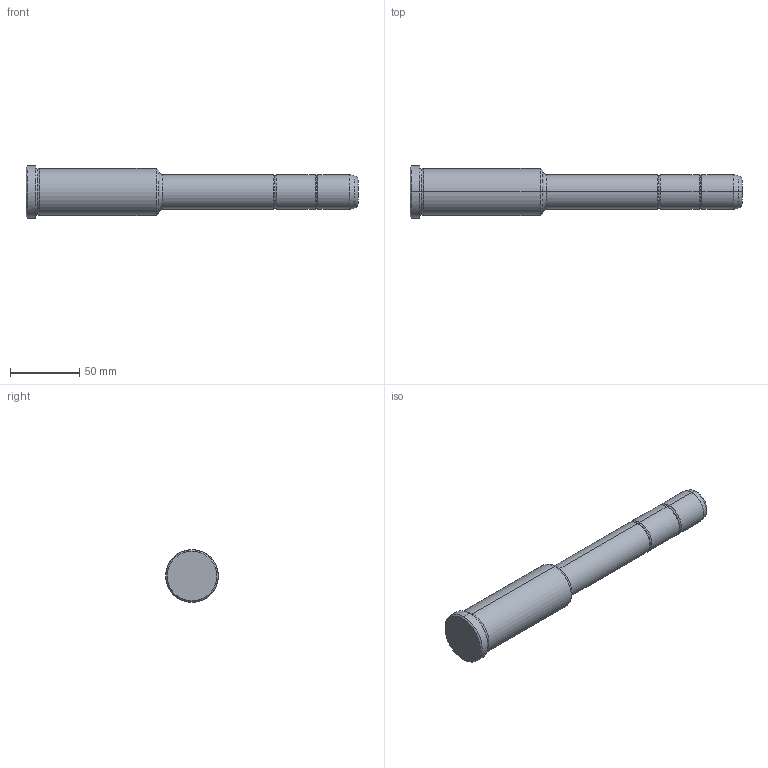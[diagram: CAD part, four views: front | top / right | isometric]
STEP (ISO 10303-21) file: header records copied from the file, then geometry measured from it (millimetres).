
FILE_DESCRIPTION(('CATIA V5 STEP Exchange'),'2;1');
FILE_NAME('C:\Users\Utente\Desktop\IO LAVORO\3D X SITO CF\X SITO\PLASTICA\351\351-25X96X240.stp','2021-09-07T12:17:34+00:00',('none'),('none'),'CATIA Version 5 Release 20 GA (IN-10)','CATIA V5 STEP AP203','none');
FILE_SCHEMA(('CONFIG_CONTROL_DESIGN'));
Length unit declared in the file: millimetre
Products named in the file (1): 351-25X96X240
Bounding box: 240 x 38 x 38 mm (x, y, z)
Volume: 158640.5 mm3; surface area: 23610.1 mm2
Topology: 1 solids, 1 shells, 36 faces, 102 edges, 70 vertices
Faces by surface type: torus 16, cylinder 10, cone 6, plane 4
Entity records: 1292 total; most frequent: CARTESIAN_POINT 321, ORIENTED_EDGE 204, DIRECTION 166, AXIS2_PLACEMENT_3D 115, EDGE_CURVE 102, CIRCLE 78, VERTEX_POINT 70, EDGE_LOOP 38
